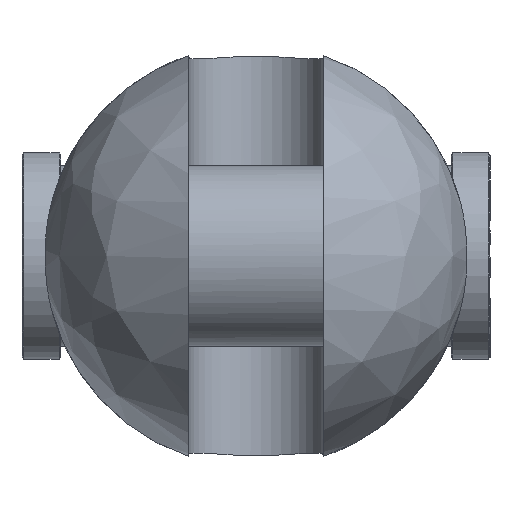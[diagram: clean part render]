
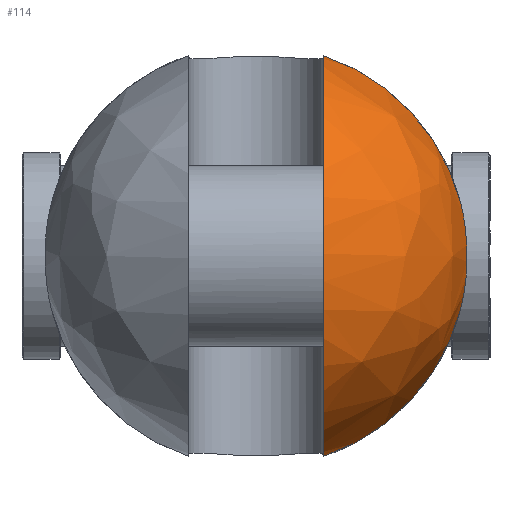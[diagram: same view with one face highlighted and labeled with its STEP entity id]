
A CAD part, left-side view. The second image highlights one B-rep face of the part: STEP entity #114.
In plain terms, the highlighted free-form (B-spline) face has degree [2, 2] with [9, 5] control points.
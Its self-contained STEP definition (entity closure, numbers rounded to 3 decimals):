
#114=ADVANCED_FACE('',(#202),#1535,.T.);
#202=FACE_OUTER_BOUND('',#302,.T.);
#302=EDGE_LOOP('',(#746,#747,#748,#749));
#746=ORIENTED_EDGE('',*,*,#1004,.T.);
#747=ORIENTED_EDGE('',*,*,#1001,.F.);
#748=ORIENTED_EDGE('',*,*,#1021,.T.);
#749=ORIENTED_EDGE('',*,*,#993,.F.);
#993=EDGE_CURVE('',#1425,#1426,#1256,.T.);
#1001=EDGE_CURVE('',#1433,#1434,#1257,.T.);
#1004=EDGE_CURVE('',#1425,#1434,#1259,.T.);
#1021=EDGE_CURVE('',#1433,#1426,#1130,.T.);
#1130=B_SPLINE_CURVE_WITH_KNOTS('',3,(#3652,#3653,#3654,#3655,#3656,#3657,
#3658,#3659,#3660,#3661,#3662,#3663,#3664,#3665),.UNSPECIFIED.,.F.,.F.,
(4,2,2,2,2,2,4),(0.,4.76,11.187,17.614,
24.04,30.467,35.227),.UNSPECIFIED.);
#1256=(
BOUNDED_CURVE()
B_SPLINE_CURVE(2,(#3502,#3503,#3504),.UNSPECIFIED.,.F.,.F.)
B_SPLINE_CURVE_WITH_KNOTS((3,3),(0.,64.69),.UNSPECIFIED.)
CURVE()
GEOMETRIC_REPRESENTATION_ITEM()
RATIONAL_B_SPLINE_CURVE((1.,0.881,1.))
REPRESENTATION_ITEM('')
);
#1257=(
BOUNDED_CURVE()
B_SPLINE_CURVE(2,(#3559,#3560,#3561),.UNSPECIFIED.,.F.,.F.)
B_SPLINE_CURVE_WITH_KNOTS((3,3),(0.,64.69),.UNSPECIFIED.)
CURVE()
GEOMETRIC_REPRESENTATION_ITEM()
RATIONAL_B_SPLINE_CURVE((1.,0.881,1.))
REPRESENTATION_ITEM('')
);
#1259=(
BOUNDED_CURVE()
B_SPLINE_CURVE(2,(#3567,#3568,#3569,#3570,#3571),.UNSPECIFIED.,.F.,.F.)
B_SPLINE_CURVE_WITH_KNOTS((3,2,3),(-194.912,-97.456,0.),
 .UNSPECIFIED.)
CURVE()
GEOMETRIC_REPRESENTATION_ITEM()
RATIONAL_B_SPLINE_CURVE((1.,0.707,1.,0.707,1.))
REPRESENTATION_ITEM('')
);
#1425=VERTEX_POINT('',#3302);
#1426=VERTEX_POINT('',#3303);
#1433=VERTEX_POINT('',#3310);
#1434=VERTEX_POINT('',#3311);
#1535=(
BOUNDED_SURFACE()
B_SPLINE_SURFACE(2,2,((#3174,#3175,#3176,#3177,#3178),(#3179,#3180,#3181,
#3182,#3183),(#3184,#3185,#3186,#3187,#3188),(#3189,#3190,#3191,#3192,#3193),
(#3194,#3195,#3196,#3197,#3198),(#3199,#3200,#3201,#3202,#3203),(#3204,
#3205,#3206,#3207,#3208),(#3209,#3210,#3211,#3212,#3213),(#3214,#3215,#3216,
#3217,#3218)),.UNSPECIFIED.,.T.,.F.,.F.)
B_SPLINE_SURFACE_WITH_KNOTS((3,2,2,2,3),(3,2,3),(0.,102.887,205.774,
308.661,411.549),(0.,102.887,205.774),
 .UNSPECIFIED.)
GEOMETRIC_REPRESENTATION_ITEM()
RATIONAL_B_SPLINE_SURFACE(((1.,0.707,1.,0.707,1.),
(0.707,0.5,0.707,0.5,0.707),(1.,0.707,
1.,0.707,1.),(0.707,0.5,0.707,0.5,0.707),
(1.,0.707,1.,0.707,1.),(0.707,0.5,0.707,
0.5,0.707),(1.,0.707,1.,0.707,1.),(0.707,
0.5,0.707,0.5,0.707),(1.,0.707,1.,0.707,
1.)))
REPRESENTATION_ITEM('')
SURFACE()
);
#3174=CARTESIAN_POINT('',(-94.,0.,0.));
#3175=CARTESIAN_POINT('',(-94.,65.5,0.));
#3176=CARTESIAN_POINT('',(-28.5,65.5,0.));
#3177=CARTESIAN_POINT('',(37.,65.5,0.));
#3178=CARTESIAN_POINT('',(37.,0.,0.));
#3179=CARTESIAN_POINT('',(-94.,0.,0.));
#3180=CARTESIAN_POINT('',(-94.,65.5,65.5));
#3181=CARTESIAN_POINT('',(-28.5,65.5,65.5));
#3182=CARTESIAN_POINT('',(37.,65.5,65.5));
#3183=CARTESIAN_POINT('',(37.,0.,0.));
#3184=CARTESIAN_POINT('',(-94.,0.,0.));
#3185=CARTESIAN_POINT('',(-94.,0.,65.5));
#3186=CARTESIAN_POINT('',(-28.5,0.,65.5));
#3187=CARTESIAN_POINT('',(37.,0.,65.5));
#3188=CARTESIAN_POINT('',(37.,0.,0.));
#3189=CARTESIAN_POINT('',(-94.,0.,0.));
#3190=CARTESIAN_POINT('',(-94.,-65.5,65.5));
#3191=CARTESIAN_POINT('',(-28.5,-65.5,65.5));
#3192=CARTESIAN_POINT('',(37.,-65.5,65.5));
#3193=CARTESIAN_POINT('',(37.,0.,0.));
#3194=CARTESIAN_POINT('',(-94.,0.,0.));
#3195=CARTESIAN_POINT('',(-94.,-65.5,0.));
#3196=CARTESIAN_POINT('',(-28.5,-65.5,0.));
#3197=CARTESIAN_POINT('',(37.,-65.5,0.));
#3198=CARTESIAN_POINT('',(37.,0.,0.));
#3199=CARTESIAN_POINT('',(-94.,0.,0.));
#3200=CARTESIAN_POINT('',(-94.,-65.5,-65.5));
#3201=CARTESIAN_POINT('',(-28.5,-65.5,-65.5));
#3202=CARTESIAN_POINT('',(37.,-65.5,-65.5));
#3203=CARTESIAN_POINT('',(37.,0.,0.));
#3204=CARTESIAN_POINT('',(-94.,0.,0.));
#3205=CARTESIAN_POINT('',(-94.,0.,-65.5));
#3206=CARTESIAN_POINT('',(-28.5,0.,-65.5));
#3207=CARTESIAN_POINT('',(37.,0.,-65.5));
#3208=CARTESIAN_POINT('',(37.,0.,0.));
#3209=CARTESIAN_POINT('',(-94.,0.,0.));
#3210=CARTESIAN_POINT('',(-94.,65.5,-65.5));
#3211=CARTESIAN_POINT('',(-28.5,65.5,-65.5));
#3212=CARTESIAN_POINT('',(37.,65.5,-65.5));
#3213=CARTESIAN_POINT('',(37.,0.,0.));
#3214=CARTESIAN_POINT('',(-94.,0.,0.));
#3215=CARTESIAN_POINT('',(-94.,65.5,0.));
#3216=CARTESIAN_POINT('',(-28.5,65.5,0.));
#3217=CARTESIAN_POINT('',(37.,65.5,0.));
#3218=CARTESIAN_POINT('',(37.,0.,0.));
#3302=CARTESIAN_POINT('',(-28.5,-21.,62.042));
#3303=CARTESIAN_POINT('',(-28.5,-63.352,16.636));
#3310=CARTESIAN_POINT('',(-28.5,-63.352,-16.636));
#3311=CARTESIAN_POINT('',(-28.5,-21.,-62.042));
#3502=CARTESIAN_POINT('',(-28.5,-21.,62.042));
#3503=CARTESIAN_POINT('',(-28.5,-54.397,50.738));
#3504=CARTESIAN_POINT('',(-28.5,-63.352,16.636));
#3559=CARTESIAN_POINT('',(-28.5,-63.352,-16.636));
#3560=CARTESIAN_POINT('',(-28.5,-54.397,-50.738));
#3561=CARTESIAN_POINT('',(-28.5,-21.,-62.042));
#3567=CARTESIAN_POINT('',(-28.5,-21.,62.042));
#3568=CARTESIAN_POINT('',(-90.542,-21.,62.042));
#3569=CARTESIAN_POINT('',(-90.542,-21.,0.));
#3570=CARTESIAN_POINT('',(-90.542,-21.,-62.042));
#3571=CARTESIAN_POINT('',(-28.5,-21.,-62.042));
#3652=CARTESIAN_POINT('',(-28.5,-63.352,-16.636));
#3653=CARTESIAN_POINT('',(-29.286,-63.706,-15.289));
#3654=CARTESIAN_POINT('',(-29.986,-64.018,-13.869));
#3655=CARTESIAN_POINT('',(-31.385,-64.638,-10.419));
#3656=CARTESIAN_POINT('',(-31.999,-64.907,-8.344));
#3657=CARTESIAN_POINT('',(-32.806,-65.261,-4.158));
#3658=CARTESIAN_POINT('',(-33.,-65.345,-2.047));
#3659=CARTESIAN_POINT('',(-33.,-65.345,2.047));
#3660=CARTESIAN_POINT('',(-32.806,-65.261,4.158));
#3661=CARTESIAN_POINT('',(-31.999,-64.907,8.344));
#3662=CARTESIAN_POINT('',(-31.385,-64.638,10.419));
#3663=CARTESIAN_POINT('',(-29.986,-64.018,13.869));
#3664=CARTESIAN_POINT('',(-29.286,-63.706,15.289));
#3665=CARTESIAN_POINT('',(-28.5,-63.352,16.636));
